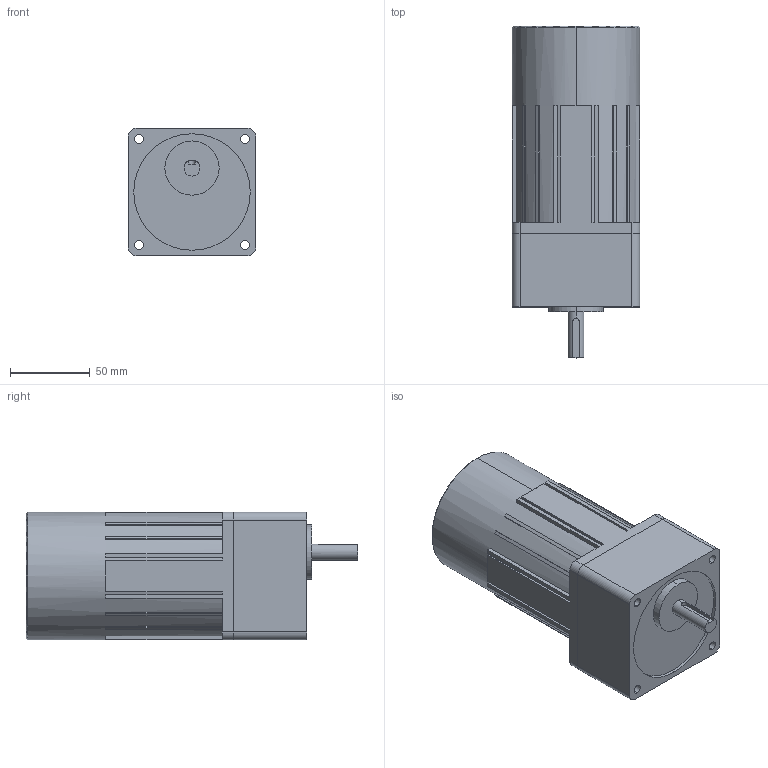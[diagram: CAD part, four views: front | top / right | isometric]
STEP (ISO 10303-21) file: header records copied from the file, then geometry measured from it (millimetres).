
FILE_DESCRIPTION (( 'STEP AP203' ), '1' );
FILE_NAME ('L8HK025B + L8R25PBLE.STEP', '2018-09-20T05:41:30', ( '' ), ( '' ), 'SwSTEP 2.0', 'SolidWorks 2017', '' );
FILE_SCHEMA (( 'CONFIG_CONTROL_DESIGN' ));
Length unit declared in the file: millimetre
Products named in the file (1): L8HK025B + L8R25PBLE
Bounding box: 80 x 208 x 80 mm (x, y, z)
Volume: 954794.2 mm3; surface area: 83487.7 mm2
Topology: 2 solids, 2 shells, 149 faces, 406 edges, 268 vertices
Faces by surface type: plane 106, cylinder 41, cone 2
Entity records: 4854 total; most frequent: CARTESIAN_POINT 854, DIRECTION 829, ORIENTED_EDGE 812, EDGE_CURVE 406, VECTOR 279, LINE 279, AXIS2_PLACEMENT_3D 275, VERTEX_POINT 268
